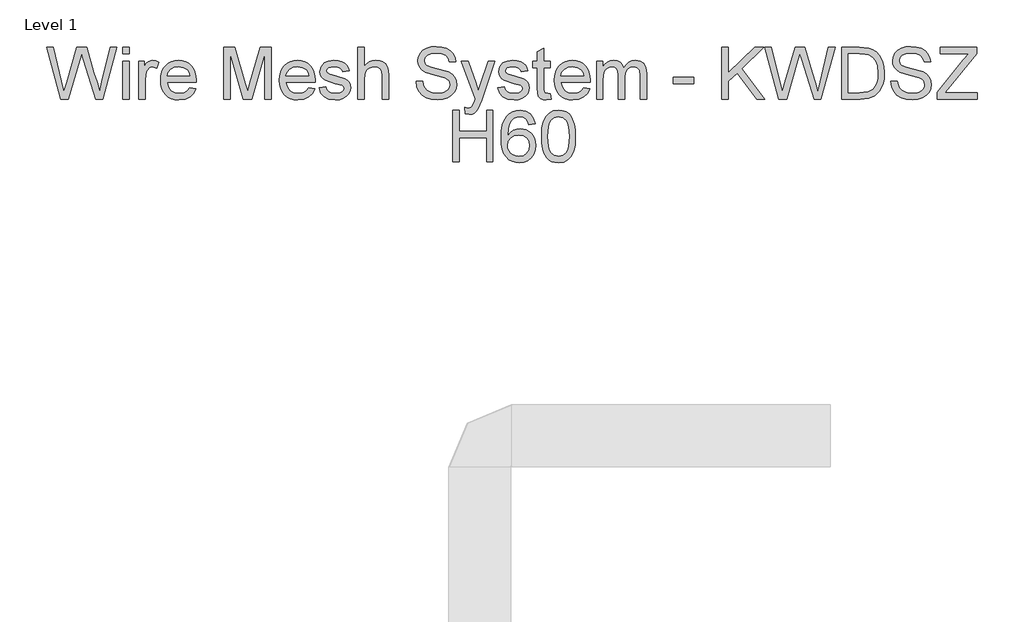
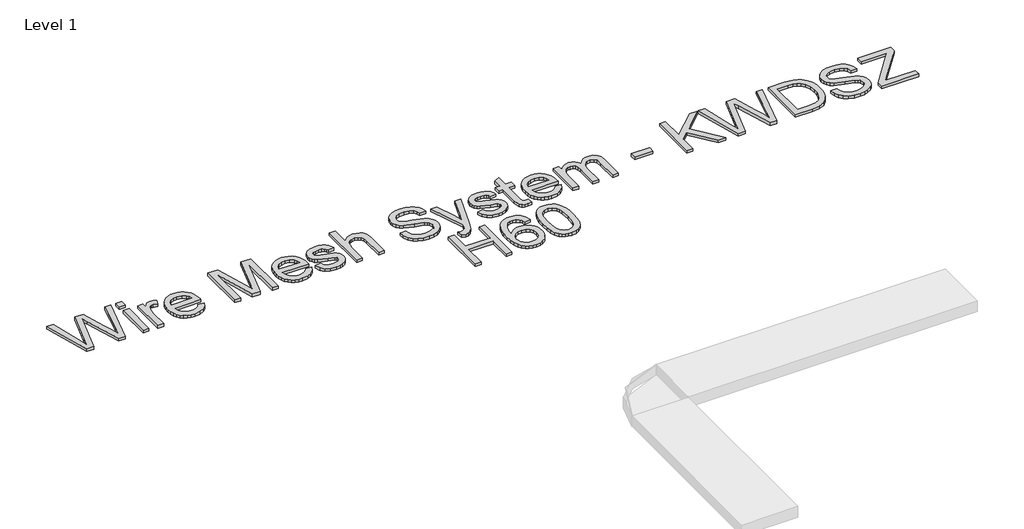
# One storey, part 21 of 32: 1 proxy.
"""IFC4 building model written with IfcOpenShell, lengths in millimetres."""

from ifc_helpers import new_model, si_unit, origin, origin_with_axes, place, context, project, spatial, polyline, outline, extrude, element, save

model = new_model("IFC4")

# Units and contexts
model_context = context("Model", 3, world=origin())
ifc_project = project(units=[si_unit("LENGTHUNIT", "METRE", prefix="MILLI")], contexts=[model_context])

# Site, building, storey
site = spatial("IfcSite", under=ifc_project)
building = spatial("IfcBuilding", under=site)
storey = spatial("IfcBuildingStorey", under=building, Name="Level 1", Elevation=0.0)

# Proxy
placement = place(None, origin())
element("IfcBuildingElementProxy", 1, Name="250mm Arial 3", ObjectType="250mm Arial 3", at=placement, inside=storey, context=model_context, shape_type="SweptSolid", body=[
    extrude(outline(polyline([(3535.6446392, 37003.1379564), (3467.1572744, 37254.2787318), (3499.53089, 37254.2787318), (3539.2621455, 37089.2223433), (3551.5248787, 37038.2706869), (3564.6460032, 37083.3362313), (3614.4326998, 37254.2787318), (3661.0923996, 37254.2787318), (3697.2674624, 37130.3638131), (3712.7644915, 37084.3785637), (3724.1841617, 37038.2706869), (3736.0790129, 37087.7508153), (3776.1781504, 37254.2787318), (3808.551766, 37254.2787318), (3740.0030875, 37003.1379564), (3706.4645123, 37003.1379564), (3646.2544924, 37196.8891405), (3637.8545202, 37223.9284672), (3628.4122157, 37191.3709106), (3573.5364847, 37003.1379564), (3535.6446392, 37003.1379564)])), origin_with_axes(), (0.0, 0.0, 1.0), 15.0),
    extrude(outline(polyline([(3836.0202883, 37222.8861348), (3836.0202883, 37254.2787318), (3867.4128852, 37254.2787318), (3867.4128852, 37222.8861348), (3836.0202883, 37222.8861348)])), origin_with_axes(), (0.0, 0.0, 1.0), 15.0),
    extrude(outline(polyline([(3836.0202883, 37003.1379564), (3836.0202883, 37187.5694633), (3867.4128852, 37187.5694633), (3867.4128852, 37003.1379564), (3836.0202883, 37003.1379564)])), origin_with_axes(), (0.0, 0.0, 1.0), 15.0),
    extrude(outline(polyline([(3914.5017806, 37003.1379564), (3914.5017806, 37187.5694633), (3941.9703029, 37187.5694633), (3941.9703029, 37160.284882), (3952.1177146, 37176.1038078), (3961.4680486, 37185.423485), (3981.0884217, 37191.4935379), (3996.7234065, 37189.0716481), (4012.603646, 37181.8059787), (4002.1190091, 37153.6630061), (3980.0460894, 37160.100941), (3970.6727627, 37158.5527709), (3962.2957831, 37153.9082608), (3950.9834118, 37136.7404343), (3945.8943775, 37100.0748621), (3945.8943775, 37003.1379564), (3914.5017806, 37003.1379564)])), origin_with_axes(), (0.0, 0.0, 1.0), 15.0),
    extrude(outline(polyline([(4161.3505993, 37058.075001), (4192.1300596, 37054.1509264), (4181.0399503, 37030.9590323), (4163.3432935, 37013.6225933), (4139.438628, 37002.8160597), (4109.7244927, 36999.2138818), (4090.2459075, 37000.7678), (4072.8903079, 37005.4295547), (4057.657694, 37013.1991458), (4044.5480659, 37024.0765733), (4034.0059474, 37037.759101), (4026.4758629, 37053.9439928), (4021.9578121, 37072.6312485), (4020.4517952, 37093.8208682), (4021.9731405, 37115.7290074), (4026.5371765, 37135.0389801), (4034.1439032, 37151.7507861), (4044.7933205, 37165.8644256), (4057.8684598, 37177.0771622), (4072.7523522, 37185.0862598), (4089.4449977, 37189.8917184), (4107.9463964, 37191.4935379), (4125.8519029, 37189.8955505), (4142.0444588, 37185.1015883), (4156.5240642, 37177.1116512), (4169.2907191, 37165.9257393), (4179.7121262, 37151.8427566), (4187.1559885, 37135.1616074), (4191.6223058, 37115.8822916), (4193.1110783, 37094.0048092), (4192.9271373, 37085.5435233), (4051.8443921, 37085.5435233), (4057.2783157, 37062.0450609), (4069.9012667, 37044.7699355), (4088.1190897, 37034.1473429), (4110.3376293, 37030.6064787), (4127.0456033, 37032.2466193), (4141.1170896, 37037.1670409), (4152.5520883, 37045.6743121), (4161.3505993, 37058.075001)]), holes=[polyline([(4051.8443921, 37116.9361202), (4161.7184813, 37116.9361202), (4157.47251, 37133.5214669), (4149.1491798, 37145.3856612), (4130.8470506, 37156.4221211), (4107.823769, 37160.100941), (4086.6628901, 37157.1655493), (4069.1655027, 37148.359374), (4057.0024042, 37134.632777), (4051.8443921, 37116.9361202)])]), origin_with_axes(), (0.0, 0.0, 1.0), 15.0),
    extrude(outline(polyline([(4326.5296152, 37003.1379564), (4326.5296152, 37254.2787318), (4380.5469548, 37254.2787318), (4431.9278068, 37077.2661784), (4442.2898163, 37040.2940379), (4453.5102172, 37080.3318617), (4504.0326778, 37254.2787318), (4558.0500175, 37254.2787318), (4558.0500175, 37003.1379564), (4526.6574205, 37003.1379564), (4526.6574205, 37222.8861348), (4463.5656584, 37003.1379564), (4421.0139743, 37003.1379564), (4357.9222121, 37222.8861348), (4357.9222121, 37003.1379564), (4326.5296152, 37003.1379564)])), origin_with_axes(), (0.0, 0.0, 1.0), 15.0),
    extrude(outline(polyline([(4738.1895678, 37058.075001), (4768.969028, 37054.1509264), (4757.8789187, 37030.9590323), (4740.1822619, 37013.6225933), (4716.2775964, 37002.8160597), (4686.5634611, 36999.2138818), (4667.0848759, 37000.7678), (4649.7292763, 37005.4295547), (4634.4966625, 37013.1991458), (4621.3870343, 37024.0765733), (4610.8449159, 37037.759101), (4603.3148313, 37053.9439928), (4598.7967805, 37072.6312485), (4597.2907636, 37093.8208682), (4598.812109, 37115.7290074), (4603.376145, 37135.0389801), (4610.9828716, 37151.7507861), (4621.632289, 37165.8644256), (4634.7074282, 37177.0771622), (4649.5913206, 37185.0862598), (4666.2839661, 37189.8917184), (4684.7853648, 37191.4935379), (4702.6908713, 37189.8955505), (4718.8834272, 37185.1015883), (4733.3630326, 37177.1116512), (4746.1296875, 37165.9257393), (4756.5510946, 37151.8427566), (4763.9949569, 37135.1616074), (4768.4612742, 37115.8822916), (4769.9500467, 37094.0048092), (4769.7661057, 37085.5435233), (4628.6833605, 37085.5435233), (4634.1172842, 37062.0450609), (4646.7402351, 37044.7699355), (4664.9580581, 37034.1473429), (4687.1765978, 37030.6064787), (4703.8845717, 37032.2466193), (4717.956058, 37037.1670409), (4729.3910567, 37045.6743121), (4738.1895678, 37058.075001)]), holes=[polyline([(4628.6833605, 37116.9361202), (4738.5574498, 37116.9361202), (4734.3114784, 37133.5214669), (4725.9881483, 37145.3856612), (4707.686019, 37156.4221211), (4684.6627375, 37160.100941), (4663.5018585, 37157.1655493), (4646.0044711, 37148.359374), (4633.8413727, 37134.632777), (4628.6833605, 37116.9361202)])]), origin_with_axes(), (0.0, 0.0, 1.0), 15.0),
    extrude(outline(polyline([(4789.5704198, 37058.075001), (4820.9630167, 37061.9990756), (4825.9140952, 37048.5713828), (4835.4943555, 37038.6998826), (4849.7651112, 37032.6298297), (4868.7876761, 37030.6064787), (4887.5803146, 37032.4612171), (4900.7934096, 37038.0254323), (4908.610902, 37046.0881793), (4911.2167328, 37055.4385134), (4908.5955736, 37063.4399468), (4900.732096, 37069.5406565), (4868.4197941, 37078.4924517), (4821.1469577, 37093.851525), (4809.1831286, 37101.5693827), (4800.5149091, 37111.7857723), (4795.2495981, 37123.8492361), (4793.4944944, 37137.1083163), (4799.1353516, 37160.4994798), (4814.5250818, 37178.3724134), (4834.48268, 37187.6614338), (4861.4913498, 37191.4935379), (4881.924129, 37189.9530321), (4899.6897637, 37185.3315145), (4913.9758478, 37178.0811735), (4923.9699753, 37168.6541974), (4930.5918513, 37156.3531432), (4934.7611805, 37140.4805679), (4903.3685836, 37136.5564933), (4899.406188, 37146.4356577), (4891.5657029, 37153.8776039), (4879.7704865, 37158.5451067), (4863.9438965, 37160.100941), (4845.9176787, 37158.6140846), (4833.9002002, 37154.1535154), (4827.1403685, 37147.7155805), (4824.8870913, 37140.2966269), (4828.6272249, 37131.1608907), (4840.3381351, 37124.2324465), (4867.3774617, 37117.5492569), (4913.4546816, 37102.7726634), (4925.6254443, 37095.7062634), (4934.853151, 37086.0340326), (4940.6702851, 37073.7253142), (4942.6093298, 37058.7494513), (4940.3330599, 37043.2677507), (4933.5042504, 37028.7057551), (4922.3834842, 37016.2054314), (4907.2313446, 37006.9087468), (4888.9292153, 37001.137598), (4868.3584804, 36999.2138818), (4836.7053004, 37002.9233586), (4813.6053768, 37014.0517889), (4798.1849898, 37032.4765455), (4789.5704198, 37058.075001)])), origin_with_axes(), (0.0, 0.0, 1.0), 15.0),
    extrude(outline(polyline([(4977.9260013, 37003.1379564), (4977.9260013, 37254.2787318), (5009.3185982, 37254.2787318), (5009.3185982, 37161.940351), (5020.8493995, 37174.8698703), (5033.7980793, 37184.1052412), (5048.1646376, 37189.6464637), (5063.9490745, 37191.4935379), (5082.9103257, 37189.4778512), (5099.2044324, 37183.4307909), (5112.034317, 37173.8275379), (5120.6029018, 37161.1432733), (5125.4313529, 37143.7148638), (5127.0408367, 37119.8791762), (5127.0408367, 37003.1379564), (5095.6482398, 37003.1379564), (5095.6482398, 37116.6295519), (5093.1497079, 37136.2805818), (5085.6541122, 37149.7389315), (5073.57532, 37157.5104386), (5057.3271986, 37160.100941), (5044.0604541, 37158.3535015), (5031.6061158, 37153.1111831), (5021.2900915, 37144.8798235), (5014.4382893, 37134.1652603), (5010.598521, 37119.9251614), (5009.3185982, 37101.1171944), (5009.3185982, 37003.1379564), (4977.9260013, 37003.1379564)])), origin_with_axes(), (0.0, 0.0, 1.0), 15.0),
    extrude(outline(polyline([(5260.4593736, 37089.4675979), (5291.8519705, 37089.4675979), (5295.4541484, 37072.0468526), (5301.9687254, 37058.0443442), (5312.1314655, 37046.9312422), (5326.6781327, 37038.1787164), (5344.4590958, 37032.4995381), (5364.3247236, 37030.6064787), (5381.8144468, 37032.0396856), (5397.1275348, 37036.3393065), (5409.5358879, 37043.1451234), (5418.3114064, 37052.0969186), (5423.5307322, 37062.3746218), (5425.2705074, 37073.1581628), (5420.0588458, 37092.7478791), (5412.1187261, 37100.4963936), (5398.7216901, 37107.0033064), (5353.0123522, 37118.990128), (5303.8081354, 37134.4718287), (5288.1808148, 37145.0331076), (5277.1060339, 37157.8323354), (5270.5071506, 37172.5936004), (5268.3075228, 37189.0409913), (5271.0283167, 37207.4274268), (5279.1906985, 37224.5722607), (5292.5800703, 37239.1035995), (5310.9818343, 37249.64955), (5333.0700824, 37256.0644923), (5357.5189067, 37258.2028064), (5384.0064103, 37255.9648576), (5407.182976, 37249.2510112), (5426.2208693, 37238.1992229), (5440.2923556, 37222.9474485), (5449.1981655, 37204.4460498), (5452.7390297, 37183.6453887), (5421.3464328, 37183.6453887), (5415.5829482, 37202.3767136), (5403.5654697, 37215.8963769), (5384.7881595, 37224.0817513), (5358.74518, 37226.8102095), (5332.0890637, 37224.1124082), (5313.8022629, 37216.0190043), (5303.2256555, 37204.1088247), (5299.7001197, 37189.9606963), (5302.1986516, 37177.8972325), (5309.6942473, 37168.1943449), (5327.4138967, 37159.5184612), (5360.9524719, 37150.6586365), (5416.5026532, 37134.9010243), (5434.3985794, 37123.5120109), (5446.8835746, 37109.455853), (5454.2182219, 37092.8858348), (5456.6631044, 37073.9552405), (5453.8503399, 37054.6031147), (5445.4120467, 37036.4006201), (5431.6931139, 37020.7349785), (5413.0384311, 37008.9934115), (5390.6052936, 37001.6587642), (5365.5509969, 36999.2138818), (5334.7945292, 37001.8503694), (5309.4796494, 37009.7598323), (5289.3151176, 37022.9729273), (5274.0096937, 37041.5203112), (5264.1841788, 37064.1143971), (5260.4593736, 37089.4675979)])), origin_with_axes(), (0.0, 0.0, 1.0), 15.0),
    extrude(outline(polyline([(5499.8279251, 36932.5046133), (5495.9038505, 36962.7322506), (5511.8454036, 36959.9731356), (5526.7446244, 36963.4373577), (5535.8803606, 36973.0942601), (5544.4642739, 36996.2095122), (5546.9168205, 37003.8124067), (5480.207552, 37187.5694633), (5513.3169316, 37187.5694633), (5548.6949168, 37085.1756413), (5561.0189637, 37044.2181125), (5573.3430105, 37080.3931754), (5609.7020143, 37187.5694633), (5642.5661392, 37187.5694633), (5578.3707311, 36998.7233725), (5561.693414, 36957.7658437), (5553.155486, 36944.6907044), (5543.4832552, 36935.6316103), (5532.2475259, 36930.3433066), (5519.0191025, 36928.5805387), (5499.8279251, 36932.5046133)])), origin_with_axes(), (0.0, 0.0, 1.0), 15.0),
    extrude(outline(polyline([(5656.7909097, 37058.075001), (5688.1835067, 37061.9990756), (5693.1345852, 37048.5713828), (5702.7148455, 37038.6998826), (5716.9856012, 37032.6298297), (5736.008166, 37030.6064787), (5754.8008046, 37032.4612171), (5768.0138996, 37038.0254323), (5775.831392, 37046.0881793), (5778.4372228, 37055.4385134), (5775.8160636, 37063.4399468), (5767.9525859, 37069.5406565), (5735.640284, 37078.4924517), (5688.3674476, 37093.851525), (5676.4036186, 37101.5693827), (5667.7353991, 37111.7857723), (5662.470088, 37123.8492361), (5660.7149843, 37137.1083163), (5666.3558416, 37160.4994798), (5681.7455717, 37178.3724134), (5701.70317, 37187.6614338), (5728.7118398, 37191.4935379), (5749.1446189, 37189.9530321), (5766.9102536, 37185.3315145), (5781.1963378, 37178.0811735), (5791.1904653, 37168.6541974), (5797.8123412, 37156.3531432), (5801.9816705, 37140.4805679), (5770.5890736, 37136.5564933), (5766.6266779, 37146.4356577), (5758.7861929, 37153.8776039), (5746.9909764, 37158.5451067), (5731.1643864, 37160.100941), (5713.1381687, 37158.6140846), (5701.1206901, 37154.1535154), (5694.3608585, 37147.7155805), (5692.1075813, 37140.2966269), (5695.8477149, 37131.1608907), (5707.5586251, 37124.2324465), (5734.5979517, 37117.5492569), (5780.6751716, 37102.7726634), (5792.8459343, 37095.7062634), (5802.073641, 37086.0340326), (5807.890775, 37073.7253142), (5809.8298197, 37058.7494513), (5807.5535499, 37043.2677507), (5800.7247403, 37028.7057551), (5789.6039742, 37016.2054314), (5774.4518345, 37006.9087468), (5756.1497053, 37001.137598), (5735.5789704, 36999.2138818), (5703.9257904, 37002.9233586), (5680.8258667, 37014.0517889), (5665.4054798, 37032.4765455), (5656.7909097, 37058.075001)])), origin_with_axes(), (0.0, 0.0, 1.0), 15.0),
    extrude(outline(polyline([(5911.8557597, 37029.3188917), (5915.7798343, 37002.2182514), (5892.2967003, 36999.2138818), (5877.2288669, 37000.5167972), (5865.9931377, 37004.4255434), (5852.8720132, 37018.0984909), (5849.0705659, 37053.7217307), (5849.0705659, 37156.1768664), (5825.5261182, 37156.1768664), (5825.5261182, 37187.5694633), (5849.0705659, 37187.5694633), (5849.0705659, 37232.3897531), (5880.4631628, 37250.8451665), (5880.4631628, 37187.5694633), (5911.8557597, 37187.5694633), (5911.8557597, 37156.1768664), (5880.4631628, 37156.1768664), (5880.4631628, 37054.6414357), (5882.1186318, 37038.4546279), (5887.4835775, 37032.7218002), (5898.1828122, 37030.6064787), (5911.8557597, 37029.3188917)])), origin_with_axes(), (0.0, 0.0, 1.0), 15.0),
    extrude(outline(polyline([(6072.3749369, 37058.075001), (6103.1543972, 37054.1509264), (6092.0642879, 37030.9590323), (6074.3676311, 37013.6225933), (6050.4629656, 37002.8160597), (6020.7488303, 36999.2138818), (6001.2702451, 37000.7678), (5983.9146455, 37005.4295547), (5968.6820317, 37013.1991458), (5955.5724035, 37024.0765733), (5945.0302851, 37037.759101), (5937.5002005, 37053.9439928), (5932.9821497, 37072.6312485), (5931.4761328, 37093.8208682), (5932.9974781, 37115.7290074), (5937.5615141, 37135.0389801), (5945.1682408, 37151.7507861), (5955.8176581, 37165.8644256), (5968.8927974, 37177.0771622), (5983.7766898, 37185.0862598), (6000.4693353, 37189.8917184), (6018.970734, 37191.4935379), (6036.8762405, 37189.8955505), (6053.0687964, 37185.1015883), (6067.5484018, 37177.1116512), (6080.3150567, 37165.9257393), (6090.7364638, 37151.8427566), (6098.1803261, 37135.1616074), (6102.6466434, 37115.8822916), (6104.1354159, 37094.0048092), (6103.9514749, 37085.5435233), (5962.8687297, 37085.5435233), (5968.3026534, 37062.0450609), (5980.9256043, 37044.7699355), (5999.1434273, 37034.1473429), (6021.3619669, 37030.6064787), (6038.0699409, 37032.2466193), (6052.1414272, 37037.1670409), (6063.5764259, 37045.6743121), (6072.3749369, 37058.075001)]), holes=[polyline([(5962.8687297, 37116.9361202), (6072.7428189, 37116.9361202), (6068.4968476, 37133.5214669), (6060.1735174, 37145.3856612), (6041.8713882, 37156.4221211), (6018.8481066, 37160.100941), (5997.6872277, 37157.1655493), (5980.1898403, 37148.359374), (5968.0267419, 37134.632777), (5962.8687297, 37116.9361202)])]), origin_with_axes(), (0.0, 0.0, 1.0), 15.0),
    extrude(outline(polyline([(6135.5280128, 37003.1379564), (6135.5280128, 37187.5694633), (6166.9206097, 37187.5694633), (6166.9206097, 37157.2191987), (6176.3629143, 37171.1603935), (6188.5030201, 37182.0818902), (6202.92706, 37189.140626), (6219.2211667, 37191.4935379), (6236.680233, 37189.0946407), (6250.6750773, 37181.8979492), (6261.1290573, 37170.3786442), (6267.9655311, 37155.0119067), (6279.4081939, 37170.9726204), (6292.4603406, 37182.3731301), (6307.1219709, 37189.213436), (6323.393085, 37191.4935379), (6346.9911821, 37187.6997549), (6364.4425843, 37176.3184056), (6375.2261253, 37157.0429219), (6378.8206389, 37129.5667354), (6378.8206389, 37003.1379564), (6347.428042, 37003.1379564), (6347.428042, 37116.0777289), (6344.5156429, 37142.2893211), (6333.9696924, 37155.1958477), (6316.0354451, 37160.100941), (6299.028567, 37156.9586156), (6285.1640143, 37147.5316395), (6275.9439718, 37131.1762191), (6272.8706243, 37107.248561), (6272.8706243, 37003.1379564), (6241.4780274, 37003.1379564), (6241.4780274, 37119.5726079), (6239.66161, 37137.3229141), (6234.212358, 37149.9841861), (6224.6244335, 37157.5717523), (6210.3919988, 37160.100941), (6198.2978782, 37158.4148152), (6187.1541194, 37153.3564378), (6177.9570696, 37145.048436), (6171.7030756, 37133.6134374), (6166.9206097, 37096.1507875), (6166.9206097, 37003.1379564), (6135.5280128, 37003.1379564)])), origin_with_axes(), (0.0, 0.0, 1.0), 15.0),
    extrude(outline(polyline([(6508.3151012, 37077.6953741), (6508.3151012, 37109.087971), (6606.4169666, 37109.087971), (6606.4169666, 37077.6953741), (6508.3151012, 37077.6953741)])), origin_with_axes(), (0.0, 0.0, 1.0), 15.0),
    extrude(outline(polyline([(7020.2228975, 37003.1379564), (6951.7355328, 37254.2787318), (6984.1091483, 37254.2787318), (7023.8404038, 37089.2223433), (7036.103137, 37038.2706869), (7049.2242615, 37083.3362313), (7099.0109582, 37254.2787318), (7145.6706579, 37254.2787318), (7181.8457207, 37130.3638131), (7197.3427498, 37084.3785637), (7208.76242, 37038.2706869), (7220.6572712, 37087.7508153), (7260.7564087, 37254.2787318), (7293.1300243, 37254.2787318), (7224.5813458, 37003.1379564), (7191.0427706, 37003.1379564), (7130.8327507, 37196.8891405), (7122.4327785, 37223.9284672), (7112.990474, 37191.3709106), (7058.114743, 37003.1379564), (7020.2228975, 37003.1379564)])), origin_with_axes(), (0.0, 0.0, 1.0), 15.0),
    extrude(outline(polyline([(6743.7595781, 37003.1379564), (6743.7595781, 37254.2787318), (6775.1521751, 37254.2787318), (6775.1521751, 37131.3448317), (6903.9108734, 37254.2787318), (6947.8114581, 37254.2787318), (6839.7154652, 37151.0265185), (6951.7355328, 37003.1379564), (6913.3531779, 37003.1379564), (6817.4586045, 37129.8119901), (6775.1521751, 37089.4675979), (6775.1521751, 37003.1379564), (6743.7595781, 37003.1379564)])), origin_with_axes(), (0.0, 0.0, 1.0), 15.0),
    extrude(outline(polyline([(7324.5226212, 37003.1379564), (7324.5226212, 37254.2787318), (7411.1588311, 37254.2787318), (7455.9791208, 37250.6612255), (7475.9980327, 37243.686796), (7492.8899477, 37232.6963214), (7510.2570435, 37213.5664576), (7522.6270756, 37189.7767553), (7530.0307008, 37161.7870668), (7532.4985758, 37130.0572447), (7530.8277784, 37103.1022244), (7525.8153862, 37079.3814999), (7518.1818348, 37059.1863112), (7508.6475598, 37042.8078982), (7485.7162488, 37020.0298713), (7455.7032093, 37007.429913), (7415.3281603, 37003.1379564), (7324.5226212, 37003.1379564)]), holes=[polyline([(7355.9152181, 37034.5305533), (7411.4653994, 37034.5305533), (7451.8711052, 37039.0677646), (7475.1702982, 37051.8823208), (7486.0764665, 37065.470962), (7494.2695051, 37083.0603198), (7499.3968604, 37104.7270365), (7501.1059789, 37130.5477541), (7497.7567199, 37164.7607796), (7487.7089429, 37190.0220099), (7472.8633715, 37207.3737774), (7455.1207295, 37217.8584142), (7437.0638549, 37221.6292047), (7410.6070081, 37222.8861348), (7355.9152181, 37222.8861348), (7355.9152181, 37034.5305533)])]), origin_with_axes(), (0.0, 0.0, 1.0), 15.0),
    extrude(outline(polyline([(7563.8911727, 37089.4675979), (7595.2837696, 37089.4675979), (7598.8859475, 37072.0468526), (7605.4005245, 37058.0443442), (7615.5632646, 37046.9312422), (7630.1099319, 37038.1787164), (7647.890895, 37032.4995381), (7667.7565227, 37030.6064787), (7685.2462459, 37032.0396856), (7700.5593339, 37036.3393065), (7712.9676871, 37043.1451234), (7721.7432055, 37052.0969186), (7726.9625313, 37062.3746218), (7728.7023066, 37073.1581628), (7723.490645, 37092.7478791), (7715.5505252, 37100.4963936), (7702.1534892, 37107.0033064), (7656.4441513, 37118.990128), (7607.2399345, 37134.4718287), (7591.6126139, 37145.0331076), (7580.537833, 37157.8323354), (7573.9389497, 37172.5936004), (7571.739322, 37189.0409913), (7574.4601159, 37207.4274268), (7582.6224976, 37224.5722607), (7596.0118694, 37239.1035995), (7614.4136334, 37249.64955), (7636.5018815, 37256.0644923), (7660.9507058, 37258.2028064), (7687.4382094, 37255.9648576), (7710.6147751, 37249.2510112), (7729.6526684, 37238.1992229), (7743.7241547, 37222.9474485), (7752.6299647, 37204.4460498), (7756.1708289, 37183.6453887), (7724.778232, 37183.6453887), (7719.0147474, 37202.3767136), (7706.9972689, 37215.8963769), (7688.2199587, 37224.0817513), (7662.1769791, 37226.8102095), (7635.5208629, 37224.1124082), (7617.234062, 37216.0190043), (7606.6574547, 37204.1088247), (7603.1319189, 37189.9606963), (7605.6304508, 37177.8972325), (7613.1260464, 37168.1943449), (7630.8456958, 37159.5184612), (7664.3842711, 37150.6586365), (7719.9344523, 37134.9010243), (7737.8303786, 37123.5120109), (7750.3153738, 37109.455853), (7757.6500211, 37092.8858348), (7760.0949035, 37073.9552405), (7757.2821391, 37054.6031147), (7748.8438458, 37036.4006201), (7735.1249131, 37020.7349785), (7716.4702302, 37008.9934115), (7694.0370927, 37001.6587642), (7668.982796, 36999.2138818), (7638.2263284, 37001.8503694), (7612.9114486, 37009.7598323), (7592.7469167, 37022.9729273), (7577.4414929, 37041.5203112), (7567.6159779, 37064.1143971), (7563.8911727, 37089.4675979)])), origin_with_axes(), (0.0, 0.0, 1.0), 15.0),
    extrude(outline(polyline([(7787.5634258, 37003.1379564), (7787.5634258, 37035.695513), (7916.0155558, 37192.9650659), (7940.4183948, 37222.8861348), (7803.2597243, 37222.8861348), (7803.2597243, 37254.2787318), (7979.8430819, 37254.2787318), (7979.8430819, 37222.8861348), (7839.2508461, 37050.7786748), (7826.0070943, 37034.5305533), (7983.7671566, 37034.5305533), (7983.7671566, 37003.1379564), (7787.5634258, 37003.1379564)])), origin_with_axes(), (0.0, 0.0, 1.0), 15.0),
    extrude(outline(polyline([(5437.0427313, 36698.2009118), (5437.0427313, 36949.3416872), (5468.4353282, 36949.3416872), (5468.4353282, 36847.3157472), (5601.8538651, 36847.3157472), (5601.8538651, 36949.3416872), (5633.246462, 36949.3416872), (5633.246462, 36698.2009118), (5601.8538651, 36698.2009118), (5601.8538651, 36815.9231502), (5468.4353282, 36815.9231502), (5468.4353282, 36698.2009118), (5437.0427313, 36698.2009118)])), origin_with_axes(), (0.0, 0.0, 1.0), 15.0),
    extrude(outline(polyline([(5837.298342, 36882.6324187), (5805.9057451, 36878.7083441), (5800.8473677, 36894.2666868), (5794.0108939, 36904.8892794), (5779.770795, 36914.6841375), (5762.5569833, 36917.9490902), (5747.9643309, 36916.0483666), (5734.2300697, 36910.3461957), (5722.4348532, 36898.3363814), (5712.8009435, 36881.8046842), (5706.2940307, 36858.4211849), (5703.8798051, 36825.8559641), (5716.4720992, 36840.5482513), (5731.5629252, 36850.9025966), (5748.3092202, 36857.0416274), (5765.8679213, 36859.087971), (5794.8692853, 36853.493099), (5819.2108106, 36836.708483), (5828.8408882, 36824.7025008), (5835.7195151, 36811.0640422), (5841.2224166, 36778.8896961), (5838.6319143, 36756.4105733), (5830.8604071, 36735.5715911), (5818.5516887, 36717.8979269), (5802.3495525, 36704.9147582), (5782.9897625, 36696.9363174), (5761.2080827, 36694.2768372), (5742.4940022, 36696.0396051), (5725.592507, 36701.3279087), (5710.5035971, 36710.1417482), (5697.2272724, 36722.4811235), (5686.4034943, 36738.8672007), (5678.6722242, 36759.821146), (5674.0334622, 36785.3429594), (5672.4872082, 36815.4326409), (5674.2039908, 36849.1666534), (5679.3543388, 36877.9572517), (5687.938252, 36901.8044356), (5699.9557305, 36920.7082052), (5712.9810524, 36933.2353536), (5728.0833747, 36942.1833167), (5745.2626975, 36947.5520945), (5764.5190207, 36949.3416872), (5792.064185, 36944.9117748), (5814.1217763, 36931.6220377), (5829.5728201, 36910.5148082), (5837.298342, 36882.6324187)]), holes=[polyline([(5703.8798051, 36779.3802054), (5705.6962225, 36765.4696674), (5711.1454745, 36752.1875946), (5719.6067604, 36740.7679243), (5730.4592793, 36732.4445942), (5743.5574111, 36727.3632241), (5758.7555361, 36725.6694341), (5779.4718909, 36729.1796415), (5795.7583334, 36739.7102636), (5806.3119481, 36756.2649534), (5809.8298197, 36777.8473637), (5806.3579334, 36798.5637186), (5795.9422744, 36814.3596518), (5779.3799204, 36824.3614435), (5757.4679491, 36827.6953741), (5736.7822511, 36824.3614435), (5719.4841331, 36814.3596518), (5707.7808871, 36798.946929), (5703.8798051, 36779.3802054)])]), origin_with_axes(), (0.0, 0.0, 1.0), 15.0),
    extrude(outline(polyline([(5868.690939, 36821.7479485), (5870.9978656, 36861.9467207), (5877.9186457, 36894.0061037), (5889.3843012, 36918.4166069), (5905.3258543, 36935.6687397), (5925.8582682, 36945.9234503), (5951.0965059, 36949.3416872), (5970.4409675, 36947.3183362), (5987.7620781, 36941.2482833), (6002.2474316, 36931.3691189), (6013.0846221, 36917.9184334), (6027.7999019, 36880.7623519), (6032.0765301, 36855.0489333), (6033.5020728, 36821.7479485), (6031.2181387, 36781.7791026), (6024.3663366, 36749.7963616), (6012.9696589, 36725.3628658), (5997.0510984, 36708.0417552), (5976.4726993, 36697.7180667), (5951.0965059, 36694.2768372), (5933.8060521, 36695.7713578), (5918.4776356, 36700.2549196), (5905.1112565, 36707.7275226), (5893.7069146, 36718.1891669), (5882.7624253, 36737.1006007), (5874.9449329, 36760.6642089), (5870.2544374, 36788.8799915), (5868.690939, 36821.7479485)]), holes=[polyline([(5900.0835359, 36821.8092622), (5903.7623558, 36772.4287685), (5908.3608808, 36755.5387696), (5914.7988157, 36743.848936), (5931.2308781, 36730.2143096), (5951.0965059, 36725.6694341), (5970.9621336, 36730.229638), (5987.3941961, 36743.9102497), (5993.832131, 36755.6192438), (5998.4306559, 36772.5054106), (6002.1094759, 36821.8092622), (5998.5532832, 36870.0784456), (5994.1080425, 36886.912879), (5987.8847054, 36898.8805402), (5971.4832998, 36913.1819527), (5950.7286239, 36917.9490902), (5931.077594, 36913.7491041), (5915.289325, 36901.1491458), (5908.6367923, 36888.1199918), (5903.8849832, 36870.5536265), (5900.0835359, 36821.8092622)])]), origin_with_axes(), (0.0, 0.0, 1.0), 15.0),
])

save(model, "model.ifc")
